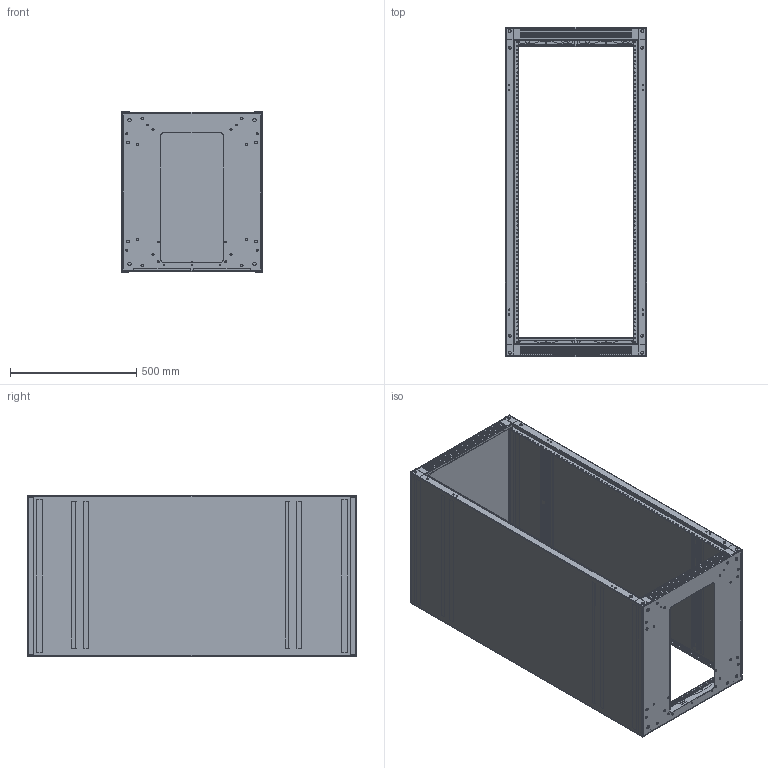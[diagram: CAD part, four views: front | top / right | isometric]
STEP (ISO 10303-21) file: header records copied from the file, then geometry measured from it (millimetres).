
FILE_DESCRIPTION((''),'2;1');
FILE_NAME('AERK-2725LRD_ASM','2016-07-29T',('rrenderos'),('Middle Atlantic Products'),'PRO/ENGINEER BY PARAMETRIC TECHNOLOGY CORPORATION, 2014310','PRO/ENGINEER BY PARAMETRIC TECHNOLOGY CORPORATION, 2014310','');
FILE_SCHEMA(('CONFIG_CONTROL_DESIGN'));
Length unit declared in the file: inch
Products named in the file (15): PERK25B_ASM; BE2725SL; BERRB25; BERK25LWB; PE2725SL_ASM; BE2725SR; PE2725SR_ASM; BERK25TF; PERK25TF_ASM; MERK-2725_ASM; BERK25B; PERR27; PKEKOPH; PKEKOPUHFH; AERK-2725LRD_ASM
Assembly tree (23 placements, depth 4):
  AERK-2725LRD_ASM
    MERK-2725_ASM
      PERK25B_ASM
      PE2725SL_ASM
        BE2725SL
        BERRB25  x2
        BERK25LWB  x2
      PE2725SR_ASM
        BE2725SR
        BERRB25  x2
        BERK25LWB  x2
      PERK25TF_ASM
        BERK25TF
    BERK25B
    PERR27  x2
    PKEKOPH  x2
    PKEKOPUHFH  x2
Bounding box: 558.8 x 1304.8 x 635 mm (x, y, z)
Volume: 5337966.4 mm3; surface area: 6721047.2 mm2
Topology: 30 solids, 30 shells, 2084 faces, 5448 edges, 3416 vertices
Faces by surface type: plane 1016, cylinder 1008, bspline 60
Entity records: 48345 total; most frequent: CARTESIAN_POINT 9654, DIRECTION 8190, ORIENTED_EDGE 7760, EDGE_CURVE 3880, AXIS2_PLACEMENT_3D 2923, VERTEX_POINT 2464, VECTOR 2344, LINE 2344
